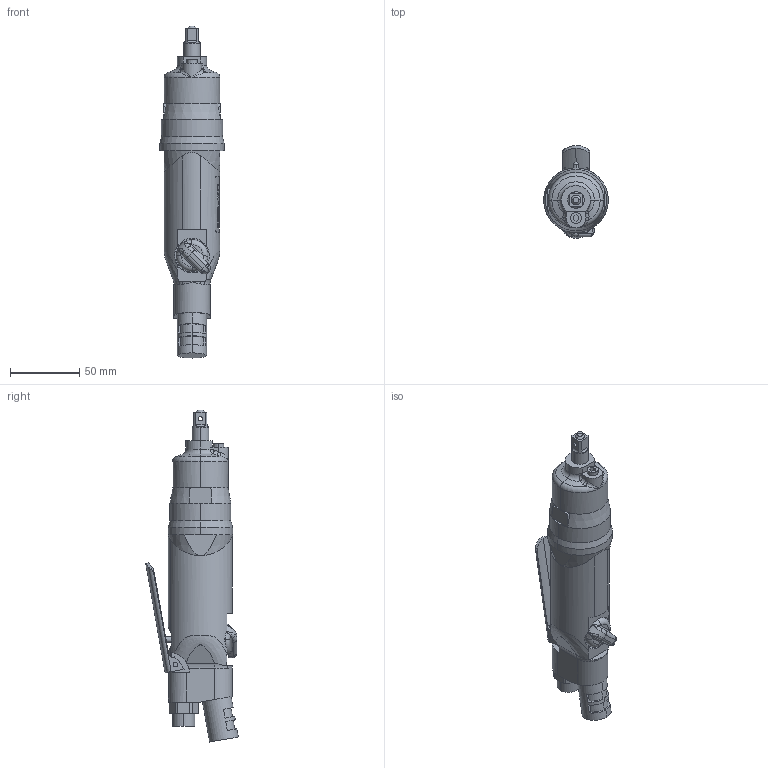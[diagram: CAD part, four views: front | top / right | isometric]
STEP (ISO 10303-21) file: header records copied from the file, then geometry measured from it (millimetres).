
FILE_DESCRIPTION (( 'STEP AP203' ), '1' );
FILE_NAME ('UX-500S.STEP', '2007-05-24T01:37:58', ( ' ' ), ( ' ' ), 'SwSTEP 2.0', 'SolidWorks 2003240', '' );
FILE_SCHEMA (( 'CONFIG_CONTROL_DESIGN' ));
Length unit declared in the file: millimetre
Products named in the file (7): 1802122_UX-500S_蹬怮椔; 1974546_UX-450S_蹬怮椔; UX-500S; 1774395_UX-500S_蹬怮椔; 1770257_UX-500S_蹬怮椔; PIN_UX-500S_蹬怮椔; 5001071_UX-500S_蹬怮椔
Assembly tree (6 placements, depth 2):
  UX-500S
    1774395_UX-500S_蹬怮椔
    PIN_UX-500S_蹬怮椔
    1974546_UX-450S_蹬怮椔
    5001071_UX-500S_蹬怮椔
    1770257_UX-500S_蹬怮椔
    1802122_UX-500S_蹬怮椔
Bounding box: 46.5 x 66.66 x 239.29 mm (x, y, z)
Volume: 259343.8 mm3; surface area: 42859.9 mm2
Topology: 6 solids, 6 shells, 460 faces, 1216 edges, 780 vertices
Faces by surface type: plane 164, cylinder 157, bspline 102, cone 19, torus 16, sphere 2
Entity records: 39110 total; most frequent: CARTESIAN_POINT 28047, ORIENTED_EDGE 2408, DIRECTION 1770, EDGE_CURVE 1204, VERTEX_POINT 780, AXIS2_PLACEMENT_3D 638, VECTOR 494, LINE 494
